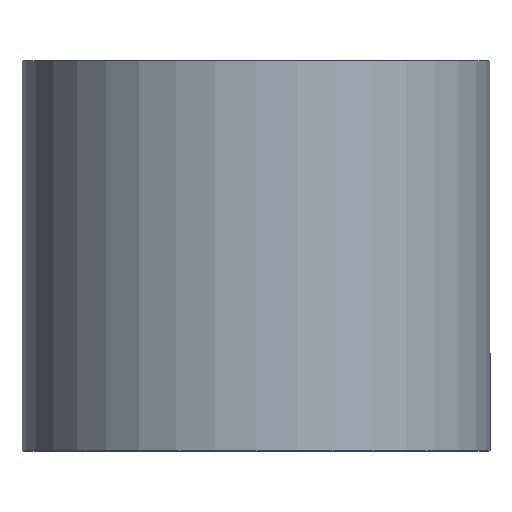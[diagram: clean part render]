
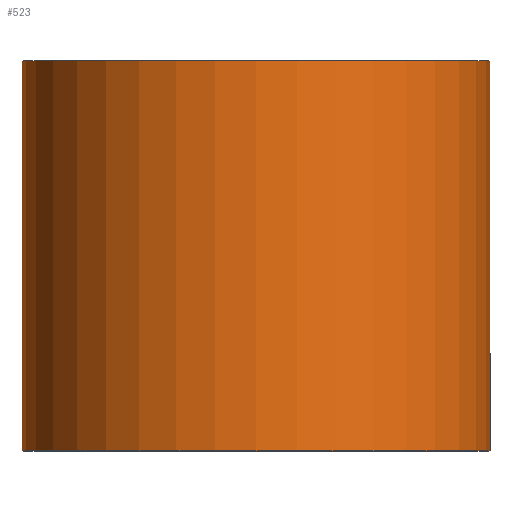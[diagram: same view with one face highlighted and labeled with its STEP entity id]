
A CAD part, top view. The second image highlights one B-rep face of the part: STEP entity #523.
In plain terms, the highlighted cylindrical face has radius 30 mm (diameter 60 mm), a partial arc.
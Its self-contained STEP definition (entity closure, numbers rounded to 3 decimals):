
#37 = VERTEX_POINT ( 'NONE', #752 ) ;
#108 = DIRECTION ( 'NONE',  ( 0., 1., 0. ) ) ;
#130 = CIRCLE ( 'NONE', #744, 30. ) ;
#132 = DIRECTION ( 'NONE',  ( 0., 1., 0. ) ) ;
#142 = ORIENTED_EDGE ( 'NONE', *, *, #819, .F. ) ;
#172 = LINE ( 'NONE', #247, #715 ) ;
#203 = DIRECTION ( 'NONE',  ( -1., 0., 0. ) ) ;
#247 = CARTESIAN_POINT ( 'NONE',  ( 30., 0., 0. ) ) ;
#248 = CARTESIAN_POINT ( 'NONE',  ( -30., 25., 0. ) ) ;
#267 = VERTEX_POINT ( 'NONE', #494 ) ;
#333 = CARTESIAN_POINT ( 'NONE',  ( -30., 0., 0. ) ) ;
#352 = FACE_OUTER_BOUND ( 'NONE', #615, .T. ) ;
#395 = VERTEX_POINT ( 'NONE', #248 ) ;
#401 = DIRECTION ( 'NONE',  ( -1., 0., 0. ) ) ;
#407 = AXIS2_PLACEMENT_3D ( 'NONE', #922, #865, #203 ) ;
#447 = EDGE_CURVE ( 'NONE', #395, #267, #130, .T. ) ;
#463 = DIRECTION ( 'NONE',  ( 0., 1., 0. ) ) ;
#479 = LINE ( 'NONE', #333, #640 ) ;
#494 = CARTESIAN_POINT ( 'NONE',  ( 30., 25., 0. ) ) ;
#523 = ADVANCED_FACE ( 'NONE', ( #352 ), #722, .T. ) ;
#524 = ORIENTED_EDGE ( 'NONE', *, *, #825, .T. ) ;
#548 = CIRCLE ( 'NONE', #779, 30. ) ;
#567 = EDGE_CURVE ( 'NONE', #868, #37, #548, .T. ) ;
#600 = CARTESIAN_POINT ( 'NONE',  ( 0., 25., 0. ) ) ;
#603 = DIRECTION ( 'NONE',  ( 0., 1., 0. ) ) ;
#615 = EDGE_LOOP ( 'NONE', ( #955, #524, #859, #142 ) ) ;
#640 = VECTOR ( 'NONE', #603, 1000. ) ;
#715 = VECTOR ( 'NONE', #108, 1000. ) ;
#718 = DIRECTION ( 'NONE',  ( -1., 0., 0. ) ) ;
#722 = CYLINDRICAL_SURFACE ( 'NONE', #407, 30. ) ;
#744 = AXIS2_PLACEMENT_3D ( 'NONE', #600, #463, #401 ) ;
#752 = CARTESIAN_POINT ( 'NONE',  ( 30., -25., 0. ) ) ;
#779 = AXIS2_PLACEMENT_3D ( 'NONE', #792, #132, #718 ) ;
#792 = CARTESIAN_POINT ( 'NONE',  ( 0., -25., 0. ) ) ;
#819 = EDGE_CURVE ( 'NONE', #868, #395, #479, .T. ) ;
#825 = EDGE_CURVE ( 'NONE', #37, #267, #172, .T. ) ;
#859 = ORIENTED_EDGE ( 'NONE', *, *, #447, .F. ) ;
#865 = DIRECTION ( 'NONE',  ( 0., 1., 0. ) ) ;
#868 = VERTEX_POINT ( 'NONE', #937 ) ;
#922 = CARTESIAN_POINT ( 'NONE',  ( 0., 0., 0. ) ) ;
#937 = CARTESIAN_POINT ( 'NONE',  ( -30., -25., 0. ) ) ;
#955 = ORIENTED_EDGE ( 'NONE', *, *, #567, .T. ) ;
